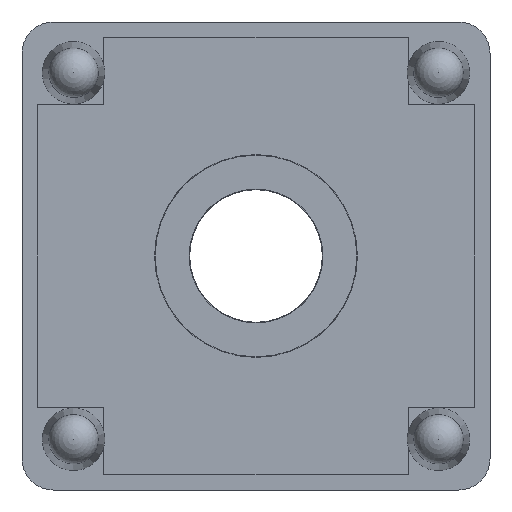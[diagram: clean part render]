
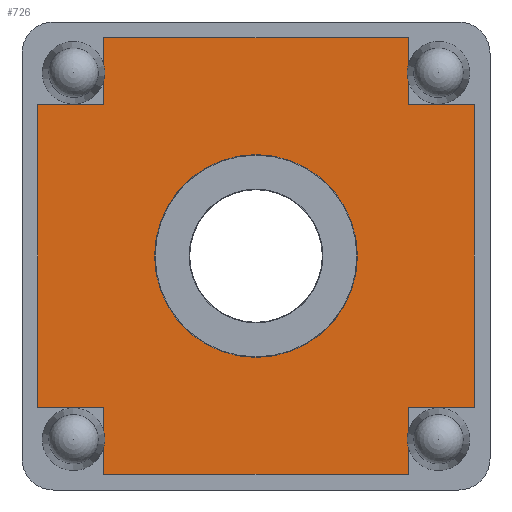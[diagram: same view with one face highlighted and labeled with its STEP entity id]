
A CAD part, front view. The second image highlights one B-rep face of the part: STEP entity #726.
In plain terms, the highlighted planar face has unit normal (0, -1, 0).
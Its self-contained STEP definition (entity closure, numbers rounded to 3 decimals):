
#64=CIRCLE('',#808,6.5);
#225=ORIENTED_EDGE('',*,*,#355,.T.);
#226=ORIENTED_EDGE('',*,*,#328,.F.);
#227=ORIENTED_EDGE('',*,*,#353,.F.);
#228=ORIENTED_EDGE('',*,*,#351,.F.);
#229=ORIENTED_EDGE('',*,*,#348,.F.);
#230=ORIENTED_EDGE('',*,*,#346,.F.);
#231=ORIENTED_EDGE('',*,*,#344,.F.);
#232=ORIENTED_EDGE('',*,*,#342,.F.);
#233=ORIENTED_EDGE('',*,*,#339,.F.);
#234=ORIENTED_EDGE('',*,*,#337,.F.);
#235=ORIENTED_EDGE('',*,*,#334,.F.);
#236=ORIENTED_EDGE('',*,*,#332,.F.);
#237=ORIENTED_EDGE('',*,*,#330,.F.);
#328=EDGE_CURVE('',#408,#409,#465,.T.);
#330=EDGE_CURVE('',#409,#410,#467,.T.);
#332=EDGE_CURVE('',#410,#411,#469,.T.);
#334=EDGE_CURVE('',#411,#412,#471,.T.);
#337=EDGE_CURVE('',#412,#413,#474,.T.);
#339=EDGE_CURVE('',#413,#414,#476,.T.);
#342=EDGE_CURVE('',#414,#415,#479,.T.);
#344=EDGE_CURVE('',#415,#416,#481,.T.);
#346=EDGE_CURVE('',#416,#417,#483,.T.);
#348=EDGE_CURVE('',#417,#418,#485,.T.);
#351=EDGE_CURVE('',#418,#419,#488,.T.);
#353=EDGE_CURVE('',#419,#408,#490,.T.);
#355=EDGE_CURVE('',#420,#420,#64,.T.);
#408=VERTEX_POINT('',#1181);
#409=VERTEX_POINT('',#1183);
#410=VERTEX_POINT('',#1187);
#411=VERTEX_POINT('',#1191);
#412=VERTEX_POINT('',#1195);
#413=VERTEX_POINT('',#1200);
#414=VERTEX_POINT('',#1204);
#415=VERTEX_POINT('',#1209);
#416=VERTEX_POINT('',#1213);
#417=VERTEX_POINT('',#1217);
#418=VERTEX_POINT('',#1221);
#419=VERTEX_POINT('',#1226);
#420=VERTEX_POINT('',#1233);
#465=LINE('',#1182,#529);
#467=LINE('',#1186,#531);
#469=LINE('',#1190,#533);
#471=LINE('',#1194,#535);
#474=LINE('',#1199,#538);
#476=LINE('',#1203,#540);
#479=LINE('',#1208,#543);
#481=LINE('',#1212,#545);
#483=LINE('',#1216,#547);
#485=LINE('',#1220,#549);
#488=LINE('',#1225,#552);
#490=LINE('',#1229,#554);
#529=VECTOR('',#955,1000.);
#531=VECTOR('',#959,1000.);
#533=VECTOR('',#963,1000.);
#535=VECTOR('',#967,1000.);
#538=VECTOR('',#972,1000.);
#540=VECTOR('',#976,1000.);
#543=VECTOR('',#981,1000.);
#545=VECTOR('',#985,1000.);
#547=VECTOR('',#989,1000.);
#549=VECTOR('',#993,1000.);
#552=VECTOR('',#998,1000.);
#554=VECTOR('',#1002,1000.);
#588=EDGE_LOOP('',(#225));
#589=EDGE_LOOP('',(#226,#227,#228,#229,#230,#231,#232,#233,#234,#235,#236,
#237));
#646=FACE_BOUND('',#588,.T.);
#647=FACE_BOUND('',#589,.T.);
#690=PLANE('',#807);
#726=ADVANCED_FACE('',(#646,#647),#690,.F.);
#807=AXIS2_PLACEMENT_3D('',#1231,#1004,#1005);
#808=AXIS2_PLACEMENT_3D('',#1232,#1006,#1007);
#955=DIRECTION('',(-1.,0.,0.));
#959=DIRECTION('',(0.,0.,1.));
#963=DIRECTION('',(1.,0.,0.));
#967=DIRECTION('',(0.,0.,1.));
#972=DIRECTION('',(1.,0.,0.));
#976=DIRECTION('',(0.,0.,-1.));
#981=DIRECTION('',(1.,0.,0.));
#985=DIRECTION('',(0.,0.,-1.));
#989=DIRECTION('',(-1.,0.,0.));
#993=DIRECTION('',(0.,0.,-1.));
#998=DIRECTION('',(-1.,0.,0.));
#1002=DIRECTION('',(0.,0.,1.));
#1004=DIRECTION('',(0.,1.,0.));
#1005=DIRECTION('',(0.,0.,1.));
#1006=DIRECTION('',(0.,1.,0.));
#1007=DIRECTION('',(0.,0.,1.));
#1181=CARTESIAN_POINT('',(-9.75,-2.,-9.7));
#1182=CARTESIAN_POINT('',(-9.75,-2.,-9.7));
#1183=CARTESIAN_POINT('',(-14.,-2.,-9.7));
#1186=CARTESIAN_POINT('',(-14.,-2.,-9.7));
#1187=CARTESIAN_POINT('',(-14.,-2.,9.7));
#1190=CARTESIAN_POINT('',(-14.,-2.,9.7));
#1191=CARTESIAN_POINT('',(-9.75,-2.,9.7));
#1194=CARTESIAN_POINT('',(-9.75,-2.,9.7));
#1195=CARTESIAN_POINT('',(-9.75,-2.,14.));
#1199=CARTESIAN_POINT('',(-9.75,-2.,14.));
#1200=CARTESIAN_POINT('',(9.75,-2.,14.));
#1203=CARTESIAN_POINT('',(9.75,-2.,14.));
#1204=CARTESIAN_POINT('',(9.75,-2.,9.7));
#1208=CARTESIAN_POINT('',(9.75,-2.,9.7));
#1209=CARTESIAN_POINT('',(14.,-2.,9.7));
#1212=CARTESIAN_POINT('',(14.,-2.,9.7));
#1213=CARTESIAN_POINT('',(14.,-2.,-9.7));
#1216=CARTESIAN_POINT('',(14.,-2.,-9.7));
#1217=CARTESIAN_POINT('',(9.75,-2.,-9.7));
#1220=CARTESIAN_POINT('',(9.75,-2.,-9.7));
#1221=CARTESIAN_POINT('',(9.75,-2.,-14.));
#1225=CARTESIAN_POINT('',(9.75,-2.,-14.));
#1226=CARTESIAN_POINT('',(-9.75,-2.,-14.));
#1229=CARTESIAN_POINT('',(-9.75,-2.,-14.));
#1231=CARTESIAN_POINT('',(0.,-2.,0.));
#1232=CARTESIAN_POINT('',(0.,-2.,0.));
#1233=CARTESIAN_POINT('',(0.,-2.,6.5));
